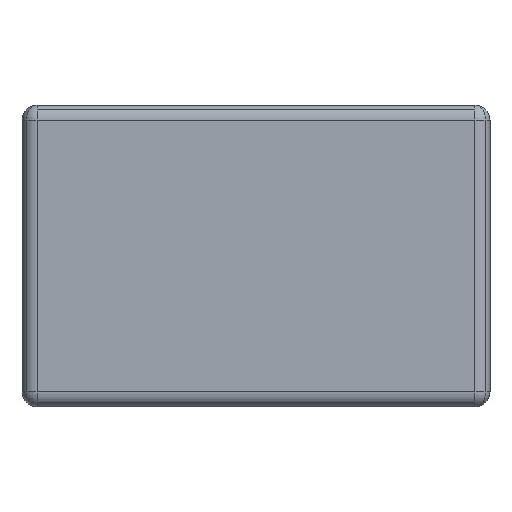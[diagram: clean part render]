
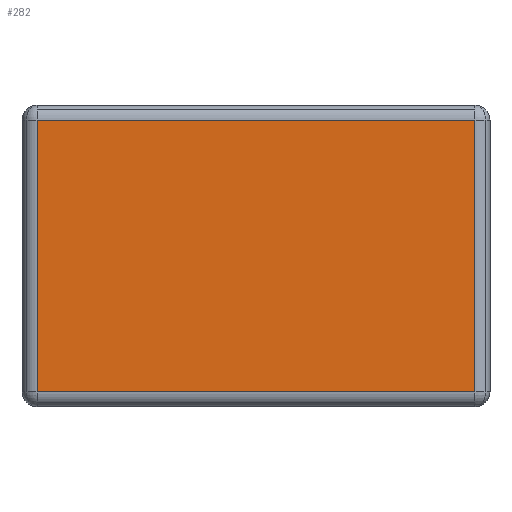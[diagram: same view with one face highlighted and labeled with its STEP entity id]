
A CAD part, front view. The second image highlights one B-rep face of the part: STEP entity #282.
In plain terms, the highlighted planar face has unit normal (0, -1, 0).
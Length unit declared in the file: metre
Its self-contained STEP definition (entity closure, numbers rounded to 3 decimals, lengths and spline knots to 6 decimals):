
#282=ADVANCED_FACE('0:402',(#751),#752,.T.);
#751=FACE_OUTER_BOUND('',#1338,.T.);
#752=PLANE('',#1339);
#1338=EDGE_LOOP('',(#3258,#3259,#3260,#3261));
#1339=AXIS2_PLACEMENT_3D('',#3262,#3263,#3264);
#3258=ORIENTED_EDGE('',*,*,#3955,.F.);
#3259=ORIENTED_EDGE('',*,*,#3925,.F.);
#3260=ORIENTED_EDGE('',*,*,#4371,.F.);
#3261=ORIENTED_EDGE('',*,*,#4372,.F.);
#3262=CARTESIAN_POINT('',(0.00775,0.0,0.0));
#3263=DIRECTION('',(0.0,-1.0,0.0));
#3264=DIRECTION('',(1.0,0.0,0.0));
#3925=EDGE_CURVE('4:530',#4691,#4711,#4712,.T.);
#3955=EDGE_CURVE('4:33',#4711,#4764,#4765,.T.);
#4371=EDGE_CURVE('4:24',#4743,#4691,#5414,.T.);
#4372=EDGE_CURVE('4:497',#4764,#4743,#5415,.T.);
#4691=VERTEX_POINT('',#5864);
#4711=VERTEX_POINT('',#5887);
#4712=LINE('',#5888,#5889);
#4743=VERTEX_POINT('',#5924);
#4764=VERTEX_POINT('',#5952);
#4765=LINE('',#5953,#5954);
#5414=LINE('',#6972,#6973);
#5415=LINE('',#6974,#6975);
#5864=CARTESIAN_POINT('',(0.015,0.0,-0.0065));
#5887=CARTESIAN_POINT('',(0.0005,0.0,-0.0065));
#5888=CARTESIAN_POINT('',(0.003875,0.0,-0.0065));
#5889=VECTOR('',#7456,1.0);
#5924=CARTESIAN_POINT('',(0.015,0.0,0.0025));
#5952=CARTESIAN_POINT('',(0.0005,0.0,0.0025));
#5953=CARTESIAN_POINT('',(0.0005,0.0,0.0));
#5954=VECTOR('',#7522,1.0);
#6972=CARTESIAN_POINT('',(0.015,0.0,0.0));
#6973=VECTOR('',#8130,1.0);
#6974=CARTESIAN_POINT('',(0.003875,0.0,0.0025));
#6975=VECTOR('',#8131,1.0);
#7456=DIRECTION('',(-1.0,0.0,0.0));
#7522=DIRECTION('',(0.0,0.0,1.0));
#8130=DIRECTION('',(0.0,-0.0,-1.0));
#8131=DIRECTION('',(1.0,-0.0,-0.0));
